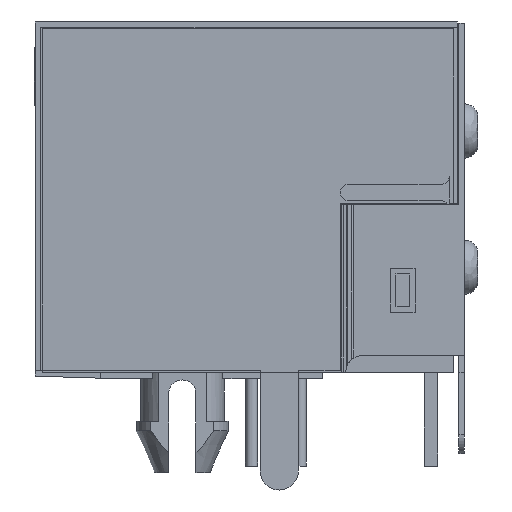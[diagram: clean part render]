
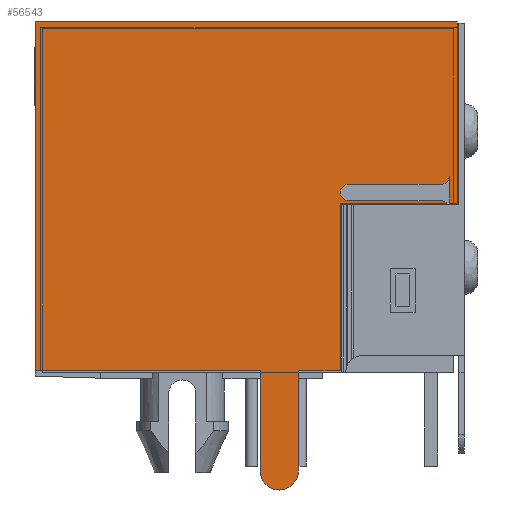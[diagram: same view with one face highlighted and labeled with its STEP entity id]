
A CAD part, front view. The second image highlights one B-rep face of the part: STEP entity #56543.
In plain terms, the highlighted planar face has unit normal (0, -1, 0).
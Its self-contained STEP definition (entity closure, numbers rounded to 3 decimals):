
#3397=DIRECTION('',(0.,0.,1.));
#3398=VECTOR('',#3397,12.8);
#3399=CARTESIAN_POINT('',(-8.001,-79.175,3.74));
#3400=LINE('',#3399,#3398);
#3526=DIRECTION('',(0.,0.,1.));
#3527=VECTOR('',#3526,6.65);
#3528=CARTESIAN_POINT('',(7.499,-79.175,9.89));
#3529=LINE('',#3528,#3527);
#3530=CARTESIAN_POINT('',(6.899,-79.175,10.88));
#3531=DIRECTION('',(0.,-1.,0.));
#3532=DIRECTION('',(0.,0.,-1.));
#3533=AXIS2_PLACEMENT_3D('',#3530,#3531,#3532);
#3535=CARTESIAN_POINT('',(3.499,-79.175,10.28));
#3536=DIRECTION('',(0.,1.,0.));
#3537=DIRECTION('',(0.,0.,-1.));
#3538=AXIS2_PLACEMENT_3D('',#3535,#3536,#3537);
#3540=CARTESIAN_POINT('',(6.899,-79.175,9.68));
#3541=DIRECTION('',(0.,-1.,0.));
#3542=DIRECTION('',(0.714,0.,0.7));
#3543=AXIS2_PLACEMENT_3D('',#3540,#3541,#3542);
#3545=CARTESIAN_POINT('',(0.959,-79.175,0.06));
#3546=DIRECTION('',(0.,-1.,0.));
#3547=DIRECTION('',(0.,0.,-1.));
#3548=AXIS2_PLACEMENT_3D('',#3545,#3546,#3547);
#3550=CARTESIAN_POINT('',(0.959,-79.175,0.06));
#3551=DIRECTION('',(0.,-1.,0.));
#3552=DIRECTION('',(-1.,0.,0.));
#3553=AXIS2_PLACEMENT_3D('',#3550,#3551,#3552);
#3555=DIRECTION('',(0.,0.,-1.));
#3556=VECTOR('',#3555,3.68);
#3557=CARTESIAN_POINT('',(0.259,-79.175,3.74));
#3558=LINE('',#3557,#3556);
#3559=DIRECTION('',(1.,0.,0.));
#3560=VECTOR('',#3559,8.26);
#3561=CARTESIAN_POINT('',(-8.001,-79.175,3.74));
#3562=LINE('',#3561,#3560);
#3567=DIRECTION('',(1.,0.,0.));
#3568=VECTOR('',#3567,0.3);
#3569=CARTESIAN_POINT('',(7.199,-79.175,9.89));
#3570=LINE('',#3569,#3568);
#3587=DIRECTION('',(0.,0.,1.));
#3588=VECTOR('',#3587,0.99);
#3589=CARTESIAN_POINT('',(7.199,-79.175,9.89));
#3590=LINE('',#3589,#3588);
#3603=DIRECTION('',(-1.,0.,0.));
#3604=VECTOR('',#3603,3.4);
#3605=CARTESIAN_POINT('',(6.899,-79.175,10.58));
#3606=LINE('',#3605,#3604);
#3619=DIRECTION('',(1.,0.,0.));
#3620=VECTOR('',#3619,3.4);
#3621=CARTESIAN_POINT('',(3.499,-79.175,9.98));
#3622=LINE('',#3621,#3620);
#3635=DIRECTION('',(1.,0.,0.));
#3636=VECTOR('',#3635,3.914);
#3637=CARTESIAN_POINT('',(3.199,-79.175,9.89));
#3638=LINE('',#3637,#3636);
#3639=DIRECTION('',(0.,0.,1.));
#3640=VECTOR('',#3639,6.15);
#3641=CARTESIAN_POINT('',(3.199,-79.175,3.74));
#3642=LINE('',#3641,#3640);
#3655=DIRECTION('',(1.,0.,0.));
#3656=VECTOR('',#3655,1.54);
#3657=CARTESIAN_POINT('',(1.659,-79.175,3.74));
#3658=LINE('',#3657,#3656);
#3667=DIRECTION('',(0.,0.,1.));
#3668=VECTOR('',#3667,3.68);
#3669=CARTESIAN_POINT('',(1.659,-79.175,0.06));
#3670=LINE('',#3669,#3668);
#3679=DIRECTION('',(1.,0.,0.));
#3680=VECTOR('',#3679,15.5);
#3681=CARTESIAN_POINT('',(-8.001,-79.175,16.54));
#3682=LINE('',#3681,#3680);
#48244=CARTESIAN_POINT('',(7.499,-79.175,9.89));
#48245=VERTEX_POINT('',#48244);
#48246=CARTESIAN_POINT('',(7.499,-79.175,16.54));
#48247=VERTEX_POINT('',#48246);
#48284=CARTESIAN_POINT('',(0.259,-79.175,3.74));
#48285=VERTEX_POINT('',#48284);
#48286=CARTESIAN_POINT('',(-8.001,-79.175,3.74));
#48287=VERTEX_POINT('',#48286);
#48292=CARTESIAN_POINT('',(0.259,-79.175,0.06));
#48293=VERTEX_POINT('',#48292);
#48294=CARTESIAN_POINT('',(7.199,-79.175,9.89));
#48295=VERTEX_POINT('',#48294);
#48296=CARTESIAN_POINT('',(7.199,-79.175,10.88));
#48297=VERTEX_POINT('',#48296);
#48298=CARTESIAN_POINT('',(6.899,-79.175,10.58));
#48299=VERTEX_POINT('',#48298);
#48300=CARTESIAN_POINT('',(3.499,-79.175,10.58));
#48301=VERTEX_POINT('',#48300);
#48302=CARTESIAN_POINT('',(3.499,-79.175,9.98));
#48303=VERTEX_POINT('',#48302);
#48304=CARTESIAN_POINT('',(6.899,-79.175,9.98));
#48305=VERTEX_POINT('',#48304);
#48306=CARTESIAN_POINT('',(7.113,-79.175,9.89));
#48307=VERTEX_POINT('',#48306);
#48308=CARTESIAN_POINT('',(3.199,-79.175,9.89));
#48309=VERTEX_POINT('',#48308);
#48310=CARTESIAN_POINT('',(3.199,-79.175,3.74));
#48311=VERTEX_POINT('',#48310);
#48312=CARTESIAN_POINT('',(1.659,-79.175,3.74));
#48313=VERTEX_POINT('',#48312);
#48314=CARTESIAN_POINT('',(1.659,-79.175,0.06));
#48315=VERTEX_POINT('',#48314);
#48316=CARTESIAN_POINT('',(0.959,-79.175,-0.64));
#48317=VERTEX_POINT('',#48316);
#48318=CARTESIAN_POINT('',(-8.001,-79.175,16.54));
#48319=VERTEX_POINT('',#48318);
#56505=CARTESIAN_POINT('',(-0.251,-79.175,7.95));
#56506=DIRECTION('',(0.,1.,0.));
#56507=DIRECTION('',(0.,0.,1.));
#56508=AXIS2_PLACEMENT_3D('',#56505,#56506,#56507);
#56509=PLANE('',#56508);
#56511=ORIENTED_EDGE('',*,*,#56510,.F.);
#56513=ORIENTED_EDGE('',*,*,#56512,.F.);
#56515=ORIENTED_EDGE('',*,*,#56514,.T.);
#56517=ORIENTED_EDGE('',*,*,#56516,.F.);
#56519=ORIENTED_EDGE('',*,*,#56518,.T.);
#56521=ORIENTED_EDGE('',*,*,#56520,.F.);
#56523=ORIENTED_EDGE('',*,*,#56522,.T.);
#56525=ORIENTED_EDGE('',*,*,#56524,.F.);
#56527=ORIENTED_EDGE('',*,*,#56526,.F.);
#56529=ORIENTED_EDGE('',*,*,#56528,.F.);
#56531=ORIENTED_EDGE('',*,*,#56530,.F.);
#56533=ORIENTED_EDGE('',*,*,#56532,.F.);
#56534=ORIENTED_EDGE('',*,*,#56498,.F.);
#56535=ORIENTED_EDGE('',*,*,#56496,.F.);
#56536=ORIENTED_EDGE('',*,*,#56439,.F.);
#56537=ORIENTED_EDGE('',*,*,#56426,.F.);
#56538=ORIENTED_EDGE('',*,*,#56077,.T.);
#56540=ORIENTED_EDGE('',*,*,#56539,.T.);
#56541=EDGE_LOOP('',(#56511,#56513,#56515,#56517,#56519,#56521,#56523,#56525,
#56527,#56529,#56531,#56533,#56534,#56535,#56536,#56537,#56538,#56540));
#56542=FACE_OUTER_BOUND('',#56541,.F.);
#56543=ADVANCED_FACE('',(#56542),#56509,.F.);
#3534=CIRCLE('',#3533,0.3);
#3539=CIRCLE('',#3538,0.3);
#3544=CIRCLE('',#3543,0.3);
#3549=CIRCLE('',#3548,0.7);
#3554=CIRCLE('',#3553,0.7);
#56077=EDGE_CURVE('',#48287,#48319,#3400,.T.);
#56426=EDGE_CURVE('',#48287,#48285,#3562,.T.);
#56439=EDGE_CURVE('',#48285,#48293,#3558,.T.);
#56496=EDGE_CURVE('',#48293,#48317,#3554,.T.);
#56498=EDGE_CURVE('',#48317,#48315,#3549,.T.);
#56510=EDGE_CURVE('',#48245,#48247,#3529,.T.);
#56512=EDGE_CURVE('',#48295,#48245,#3570,.T.);
#56514=EDGE_CURVE('',#48295,#48297,#3590,.T.);
#56516=EDGE_CURVE('',#48299,#48297,#3534,.T.);
#56518=EDGE_CURVE('',#48299,#48301,#3606,.T.);
#56520=EDGE_CURVE('',#48303,#48301,#3539,.T.);
#56522=EDGE_CURVE('',#48303,#48305,#3622,.T.);
#56524=EDGE_CURVE('',#48307,#48305,#3544,.T.);
#56526=EDGE_CURVE('',#48309,#48307,#3638,.T.);
#56528=EDGE_CURVE('',#48311,#48309,#3642,.T.);
#56530=EDGE_CURVE('',#48313,#48311,#3658,.T.);
#56532=EDGE_CURVE('',#48315,#48313,#3670,.T.);
#56539=EDGE_CURVE('',#48319,#48247,#3682,.T.);
